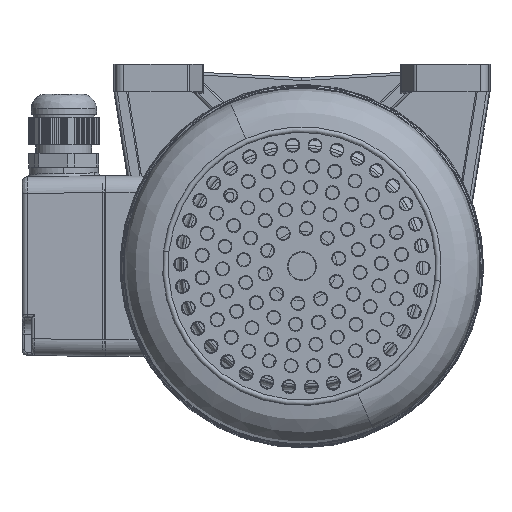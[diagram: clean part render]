
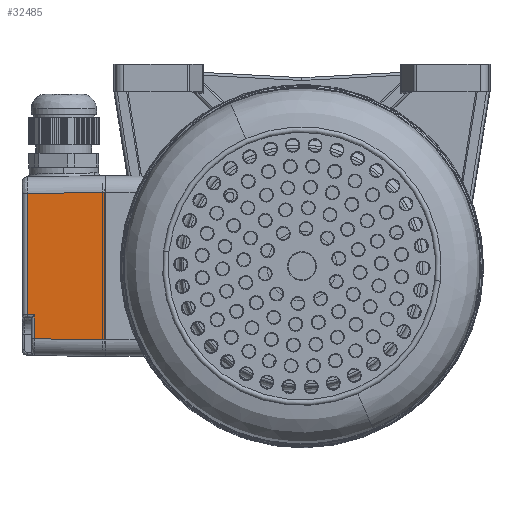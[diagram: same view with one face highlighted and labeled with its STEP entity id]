
A CAD part, front view. The second image highlights one B-rep face of the part: STEP entity #32485.
In plain terms, the highlighted planar face has unit normal (-0.018, -1, 0) as drawn and (-1, 0, 0.017) by its records, which use the part's own axes.
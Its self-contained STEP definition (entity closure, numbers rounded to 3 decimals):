
#22526 = EDGE_CURVE ( 'NONE', #32614, #31469, #91765, .T. ) ;
#22558 = EDGE_CURVE ( 'NONE', #32695, #32624, #91850, .T. ) ;
#22563 = EDGE_CURVE ( 'NONE', #32732, #32695, #91858, .T. ) ;
#22574 = EDGE_CURVE ( 'NONE', #32624, #32733, #91891, .T. ) ;
#22580 = EDGE_CURVE ( 'NONE', #32733, #31469, #91902, .T. ) ;
#24846 = ORIENTED_EDGE ( 'NONE', *, *, #22563, .T. ) ;
#24850 = ORIENTED_EDGE ( 'NONE', *, *, #22574, .T. ) ;
#24852 = ORIENTED_EDGE ( 'NONE', *, *, #22558, .T. ) ;
#24856 = ORIENTED_EDGE ( 'NONE', *, *, #22580, .T. ) ;
#24859 = ORIENTED_EDGE ( 'NONE', *, *, #22526, .F. ) ;
#24863 = ORIENTED_EDGE ( 'NONE', *, *, #57848, .F. ) ;
#31469 = VERTEX_POINT ( 'NONE', #99089 ) ;
#32485 = ADVANCED_FACE ( 'NONE', ( #115108 ), #113735, .T. ) ;
#32614 = VERTEX_POINT ( 'NONE', #115768 ) ;
#32624 = VERTEX_POINT ( 'NONE', #115788 ) ;
#32695 = VERTEX_POINT ( 'NONE', #115930 ) ;
#32732 = VERTEX_POINT ( 'NONE', #116004 ) ;
#32733 = VERTEX_POINT ( 'NONE', #116006 ) ;
#33386 = EDGE_LOOP ( 'NONE', ( #24846, #24852, #24850, #24856, #24859, #24863 ) ) ;
#57848 = EDGE_CURVE ( 'NONE', #32732, #32614, #104977, .T. ) ;
#88903 = VECTOR ( 'NONE', #91768, 1000. ) ;
#88906 = VECTOR ( 'NONE', #91852, 1000. ) ;
#88908 = VECTOR ( 'NONE', #91861, 1000. ) ;
#88909 = VECTOR ( 'NONE', #91895, 1000. ) ;
#88910 = VECTOR ( 'NONE', #91906, 1000. ) ;
#91765 = LINE ( 'NONE', #91767, #88903 ) ;
#91767 = CARTESIAN_POINT ( 'NONE',  ( -32.5, -26.501, 0. ) ) ;
#91768 = DIRECTION ( 'NONE',  ( -0.017, -0.017, -1. ) ) ;
#91850 = LINE ( 'NONE', #91851, #88906 ) ;
#91851 = CARTESIAN_POINT ( 'NONE',  ( -32.055, -29.151, 25.517 ) ) ;
#91852 = DIRECTION ( 'NONE',  ( 0., 1., 0. ) ) ;
#91858 = LINE ( 'NONE', #91860, #88908 ) ;
#91860 = CARTESIAN_POINT ( 'NONE',  ( -32.011, 17.473, 28.035 ) ) ;
#91861 = DIRECTION ( 'NONE',  ( -0.017, 0.017, -1. ) ) ;
#91891 = LINE ( 'NONE', #91893, #88909 ) ;
#91893 = CARTESIAN_POINT ( 'NONE',  ( -32.055, 26.056, 25.517 ) ) ;
#91895 = DIRECTION ( 'NONE',  ( -0.017, 0.017, -1. ) ) ;
#91902 = LINE ( 'NONE', #91904, #88910 ) ;
#91904 = CARTESIAN_POINT ( 'NONE',  ( -32.5, -29.151, 0. ) ) ;
#91906 = DIRECTION ( 'NONE',  ( 0., -1., 0. ) ) ;
#99089 = CARTESIAN_POINT ( 'NONE',  ( -32.5, -26.501, 0. ) ) ;
#104977 = LINE ( 'NONE', #104978, #105402 ) ;
#104978 = CARTESIAN_POINT ( 'NONE',  ( -32.011, 17.473, 28.035 ) ) ;
#104979 = DIRECTION ( 'NONE',  ( 0., -1., 0. ) ) ;
#105402 = VECTOR ( 'NONE', #104979, 1000. ) ;
#113735 = PLANE ( 'NONE',  #115102 ) ;
#113736 = CARTESIAN_POINT ( 'NONE',  ( -31.986, -29.151, 29.437 ) ) ;
#113737 = DIRECTION ( 'NONE',  ( -1., 0., 0.017 ) ) ;
#113739 = DIRECTION ( 'NONE',  ( 0.017, 0., 1. ) ) ;
#115102 = AXIS2_PLACEMENT_3D ( 'NONE', #113736, #113737, #113739 ) ;
#115108 = FACE_OUTER_BOUND ( 'NONE', #33386, .T. ) ;
#115768 = CARTESIAN_POINT ( 'NONE',  ( -32.011, -26.012, 28.035 ) ) ;
#115788 = CARTESIAN_POINT ( 'NONE',  ( -32.055, 26.056, 25.517 ) ) ;
#115930 = CARTESIAN_POINT ( 'NONE',  ( -32.055, 17.517, 25.517 ) ) ;
#116004 = CARTESIAN_POINT ( 'NONE',  ( -32.011, 17.473, 28.035 ) ) ;
#116006 = CARTESIAN_POINT ( 'NONE',  ( -32.5, 26.501, 0. ) ) ;
